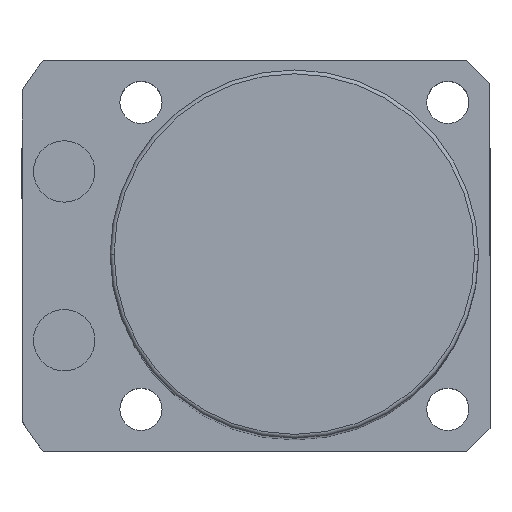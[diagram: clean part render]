
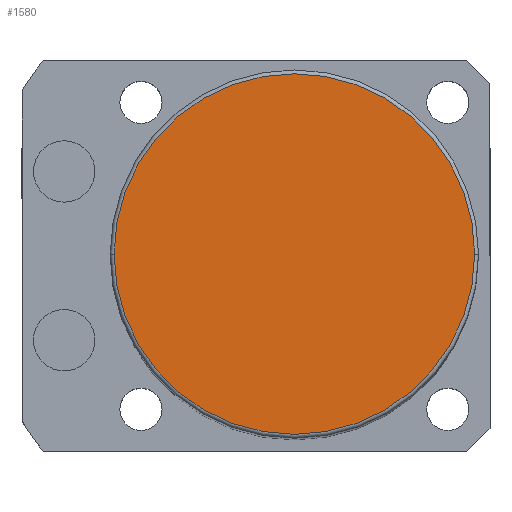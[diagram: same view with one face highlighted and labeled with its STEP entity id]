
A CAD part, top view. The second image highlights one B-rep face of the part: STEP entity #1580.
In plain terms, the highlighted planar face has unit normal (0, 0, 1).
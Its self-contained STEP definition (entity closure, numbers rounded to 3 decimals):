
#53 = DIRECTION ( 'NONE',  ( 1., 0., 0. ) ) ;
#256 = DIRECTION ( 'NONE',  ( 1., 0., 0. ) ) ;
#346 = EDGE_LOOP ( 'NONE', ( #1125, #1963 ) ) ;
#350 = AXIS2_PLACEMENT_3D ( 'NONE', #939, #1308, #53 ) ;
#397 = EDGE_CURVE ( 'NONE', #1642, #2334, #2025, .T. ) ;
#549 = CARTESIAN_POINT ( 'NONE',  ( 23.5, 0., 146. ) ) ;
#891 = PLANE ( 'NONE',  #1198 ) ;
#937 = AXIS2_PLACEMENT_3D ( 'NONE', #2065, #1682, #256 ) ;
#939 = CARTESIAN_POINT ( 'NONE',  ( 0., 0., 146. ) ) ;
#1082 = DIRECTION ( 'NONE',  ( 0., 0., 1. ) ) ;
#1111 = EDGE_CURVE ( 'NONE', #2334, #1642, #1991, .T. ) ;
#1125 = ORIENTED_EDGE ( 'NONE', *, *, #1111, .T. ) ;
#1198 = AXIS2_PLACEMENT_3D ( 'NONE', #1433, #1082, #2013 ) ;
#1308 = DIRECTION ( 'NONE',  ( 0., 0., 1. ) ) ;
#1433 = CARTESIAN_POINT ( 'NONE',  ( 0., 0., 146. ) ) ;
#1523 = FACE_OUTER_BOUND ( 'NONE', #346, .T. ) ;
#1580 = ADVANCED_FACE ( 'NONE', ( #1523 ), #891, .T. ) ;
#1632 = CARTESIAN_POINT ( 'NONE',  ( -23.5, 0., 146. ) ) ;
#1642 = VERTEX_POINT ( 'NONE', #1632 ) ;
#1682 = DIRECTION ( 'NONE',  ( 0., 0., 1. ) ) ;
#1963 = ORIENTED_EDGE ( 'NONE', *, *, #397, .T. ) ;
#1991 = CIRCLE ( 'NONE', #350, 23.5 ) ;
#2013 = DIRECTION ( 'NONE',  ( 1., 0., 0. ) ) ;
#2025 = CIRCLE ( 'NONE', #937, 23.5 ) ;
#2065 = CARTESIAN_POINT ( 'NONE',  ( 0., 0., 146. ) ) ;
#2334 = VERTEX_POINT ( 'NONE', #549 ) ;
